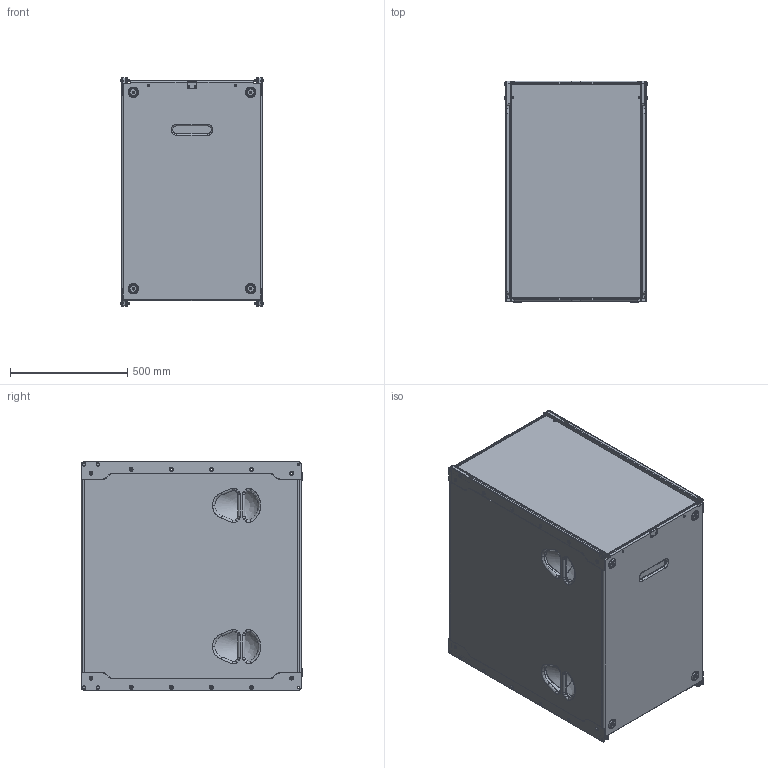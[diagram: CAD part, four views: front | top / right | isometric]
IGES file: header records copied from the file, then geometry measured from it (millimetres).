
Start section: SolidWorks IGES file using analytic representation for surfaces
Global section: file name: C:\Documents and Settings\Administrator\My Documents\Michl\SolidWorks\3d_Dateien_Homepage\Neue-Produkte\SEEBURG_Galeo-Sub-Vollversion.IGS; native system: SolidWorks 2009; preprocessor: SolidWorks 2009; author: Administrator; date: 140404.103247; units: millimetre
Bounding box: 607 x 943.74 x 971.61 mm (x, y, z)
Surface area: 9613876.2 mm2 (no closed solid volume)
Topology: 0 solids, 0 shells, 1840 faces, 31915 edges, 31907 vertices
Faces by surface type: revolution 1109, bspline 731
